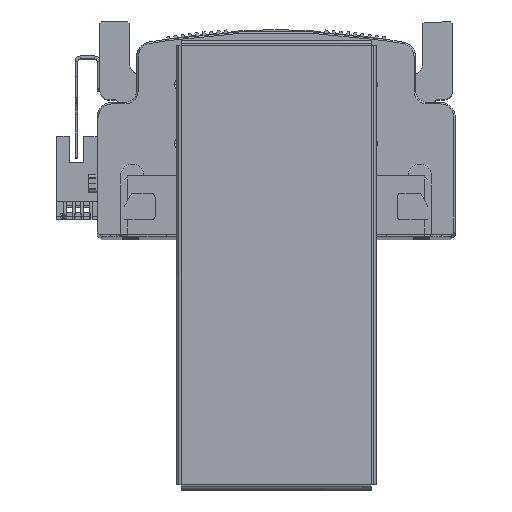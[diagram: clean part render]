
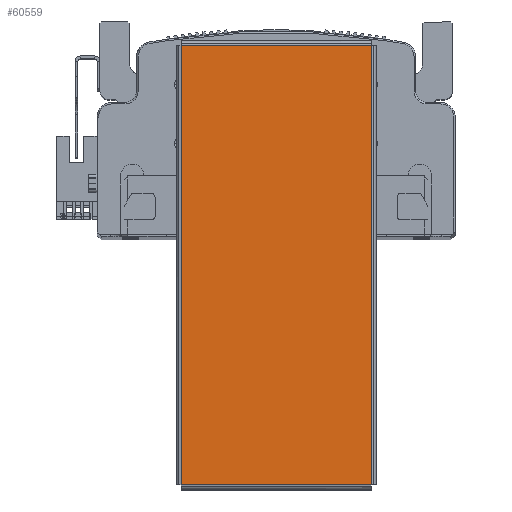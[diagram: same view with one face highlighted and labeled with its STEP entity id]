
A CAD part, top view. The second image highlights one B-rep face of the part: STEP entity #60559.
In plain terms, the highlighted planar face has unit normal (0, 0, 1) as drawn and (0, 0, -1) by its records, which use the part's own axes.
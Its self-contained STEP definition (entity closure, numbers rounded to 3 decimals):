
#1729 = CARTESIAN_POINT ( 'NONE',  ( 74.763, -32.363, -1. ) ) ;
#1785 = CARTESIAN_POINT ( 'NONE',  ( 74.763, 32.363, -1. ) ) ;
#1816 = CARTESIAN_POINT ( 'NONE',  ( -74.763, -32.363, -1. ) ) ;
#1824 = CARTESIAN_POINT ( 'NONE',  ( -74.763, 32.363, -1. ) ) ;
#6506 = VERTEX_POINT ( 'NONE', #1729 ) ;
#6528 = VERTEX_POINT ( 'NONE', #1824 ) ;
#6532 = VERTEX_POINT ( 'NONE', #1816 ) ;
#6574 = VERTEX_POINT ( 'NONE', #1785 ) ;
#16047 = EDGE_LOOP ( 'NONE', ( #41246, #43176, #43052, #43149 ) ) ;
#21532 = AXIS2_PLACEMENT_3D ( 'NONE', #27188, #27191, #27211 ) ;
#27184 = PLANE ( 'NONE',  #21532 ) ;
#27188 = CARTESIAN_POINT ( 'NONE',  ( 0., 0., -1. ) ) ;
#27191 = DIRECTION ( 'NONE',  ( 0., 0., 1. ) ) ;
#27211 = DIRECTION ( 'NONE',  ( 1., 0., 0. ) ) ;
#41246 = ORIENTED_EDGE ( 'NONE', *, *, #78929, .T. ) ;
#43052 = ORIENTED_EDGE ( 'NONE', *, *, #78822, .T. ) ;
#43149 = ORIENTED_EDGE ( 'NONE', *, *, #78902, .T. ) ;
#43176 = ORIENTED_EDGE ( 'NONE', *, *, #78836, .T. ) ;
#44711 = FACE_OUTER_BOUND ( 'NONE', #16047, .T. ) ;
#45420 = CARTESIAN_POINT ( 'NONE',  ( -74.763, -32.393, -1. ) ) ;
#45458 = DIRECTION ( 'NONE',  ( 0., 1., 0. ) ) ;
#45518 = DIRECTION ( 'NONE',  ( -1., 0., 0. ) ) ;
#45536 = CARTESIAN_POINT ( 'NONE',  ( 74.793, -32.363, -1. ) ) ;
#45858 = DIRECTION ( 'NONE',  ( 1., 0., 0. ) ) ;
#45900 = CARTESIAN_POINT ( 'NONE',  ( -74.793, 32.363, -1. ) ) ;
#46094 = DIRECTION ( 'NONE',  ( 0., -1., 0. ) ) ;
#46111 = CARTESIAN_POINT ( 'NONE',  ( 74.763, 32.393, -1. ) ) ;
#50194 = LINE ( 'NONE', #45420, #50246 ) ;
#50217 = VECTOR ( 'NONE', #45518, 1000. ) ;
#50242 = LINE ( 'NONE', #45536, #50217 ) ;
#50246 = VECTOR ( 'NONE', #45458, 1000. ) ;
#50334 = VECTOR ( 'NONE', #46094, 1000. ) ;
#50348 = LINE ( 'NONE', #46111, #50334 ) ;
#50372 = LINE ( 'NONE', #45900, #50382 ) ;
#50382 = VECTOR ( 'NONE', #45858, 1000. ) ;
#60559 = ADVANCED_FACE ( 'NONE', ( #44711 ), #27184, .F. ) ;
#78822 = EDGE_CURVE ( 'NONE', #6532, #6528, #50194, .T. ) ;
#78836 = EDGE_CURVE ( 'NONE', #6506, #6532, #50242, .T. ) ;
#78902 = EDGE_CURVE ( 'NONE', #6528, #6574, #50372, .T. ) ;
#78929 = EDGE_CURVE ( 'NONE', #6574, #6506, #50348, .T. ) ;
